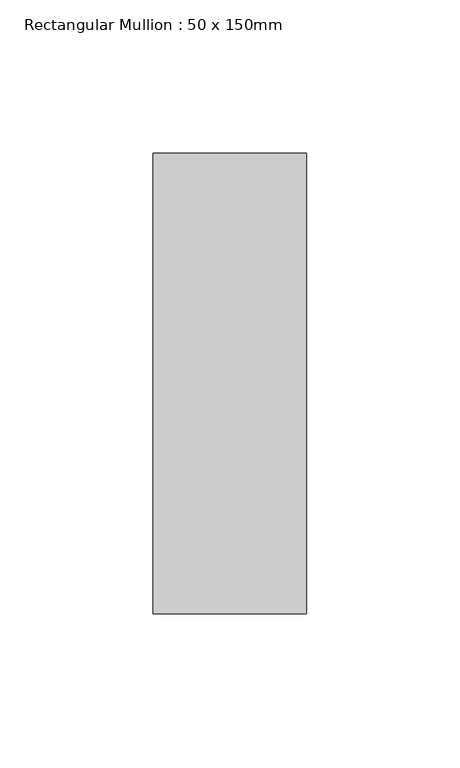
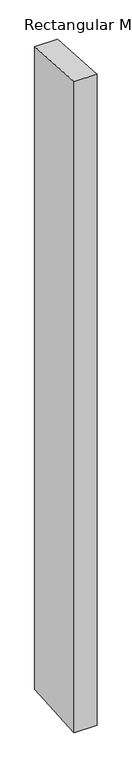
"""IFC4 building model written with IfcOpenShell, lengths in millimetres: member geometry, Rectangular Mullion : 50 x 150mm."""

from ifc_helpers import new_model, si_unit, frame, origin, place, context, project, spatial, polyline, outline, extrude, source, transform, mapped, element, save


def rectangular_mullion_50_x_150mm_2f072838(model_context):
    return source(origin(), model_context, "Body", "SweptSolid", [
        extrude(outline(polyline([(-75.0, 4.7434614), (75.0, -4.7434614), (75.0, -1495.2525063), (-75.0, -1504.7474937), (-75.0, 4.7434614)])), frame((-25.0, 0.0, 0.0), z_axis=(1.0, 0.0, 0.0), x_axis=(0.0, 1.0, 0.0)), (0.0, 0.0, 1.0), 50.0),
    ])


if __name__ == "__main__":
    model = new_model("IFC4")
    model_context = context("Model", 3, world=origin())
    ifc_project = project(units=[si_unit("LENGTHUNIT", "METRE", prefix="MILLI")], contexts=[model_context])
    site = spatial("IfcSite", under=ifc_project)
    building = spatial("IfcBuilding", under=site)
    placement = place(None, origin())
    rectangular_mullion_50_x_150mm_shape = rectangular_mullion_50_x_150mm_2f072838(model_context)
    element("IfcMember", 1, ObjectType="Rectangular Mullion : 50 x 150mm", at=placement, inside=building, context=model_context, shape_type="MappedRepresentation", body=[
        mapped(rectangular_mullion_50_x_150mm_shape, transform((0.0, 0.0, 0.0), x_axis=(1.0, 0.0, 0.0), y_axis=(0.0, 1.0, 0.0), z_axis=(0.0, 0.0, 1.0))),
    ])
    save(model, "model.ifc")
